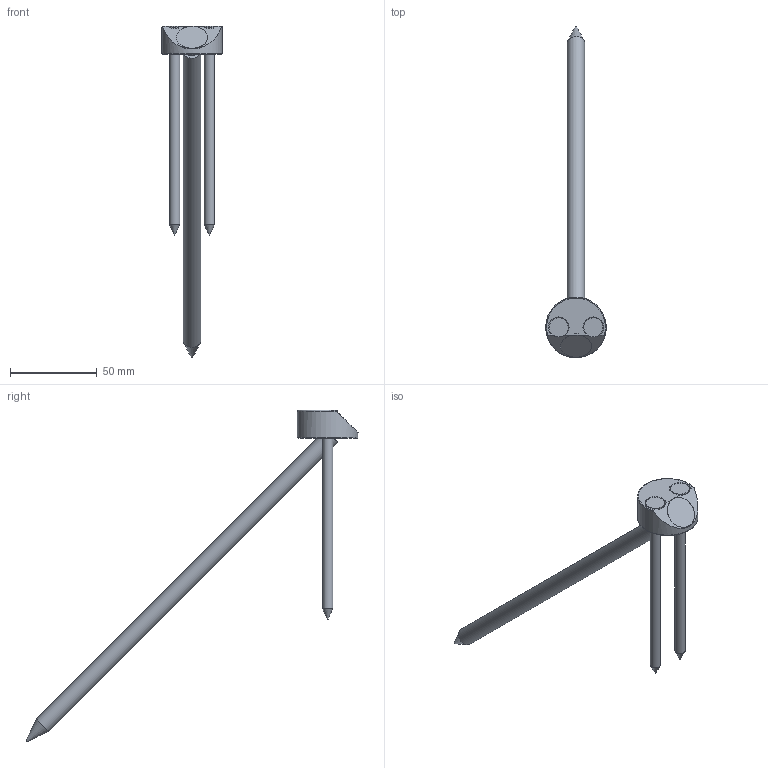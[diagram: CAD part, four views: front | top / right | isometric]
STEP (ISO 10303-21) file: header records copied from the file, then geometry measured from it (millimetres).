
FILE_DESCRIPTION(/* description */ ('Unknown'),/* implementation_level */ '2;1');
FILE_NAME(/* name */ 'T-Joint_D35_W45_SK-10x260_2xSK-6x120',/* time_stamp */ '2020-07-13T10:16:45+02:00',/* author */ ('Unknown'),/* organization */ ('Unknown'),/* preprocessor_version */ 'ST-DEVELOPER v16.7',/* originating_system */ 'DEX',/* authorisation */ $);
FILE_SCHEMA (('AUTOMOTIVE_DESIGN {1 0 10303 214 3 1 1}'));
Length unit declared in the file: millimetre
Products named in the file (4): T-Joint_D35_W45_SK-10x260_2xSK-6x120; T-Joint_D35_W45; SK Schraube 6x120_ohne_Gewinde; SK Schraube 10x260_ohne_Gewinde_22042020
Assembly tree (4 placements, depth 2):
  T-Joint_D35_W45_SK-10x260_2xSK-6x120
    T-Joint_D35_W45
    SK Schraube 6x120_ohne_Gewinde  x2
    SK Schraube 10x260_ohne_Gewinde_22042020
Bounding box: 34.78 x 190.85 x 190.56 mm (x, y, z)
Volume: 37366.1 mm3; surface area: 17181.3 mm2
Topology: 4 solids, 4 shells, 35 faces, 73 edges, 45 vertices
Faces by surface type: cylinder 12, plane 11, cone 9, torus 3
Full cylindrical faces by diameter (mm): 6 x2, 6.2 x2, 6.3 x1, 10 x2, 11 x2, 12.5 x1, 18 x1, 34.8 x1
Entity records: 771 total; most frequent: DIRECTION 130, CARTESIAN_POINT 126, ORIENTED_EDGE 76, AXIS2_PLACEMENT_3D 63, EDGE_LOOP 53, FACE_BOUND 53, EDGE_CURVE 38, VERTEX_POINT 33
